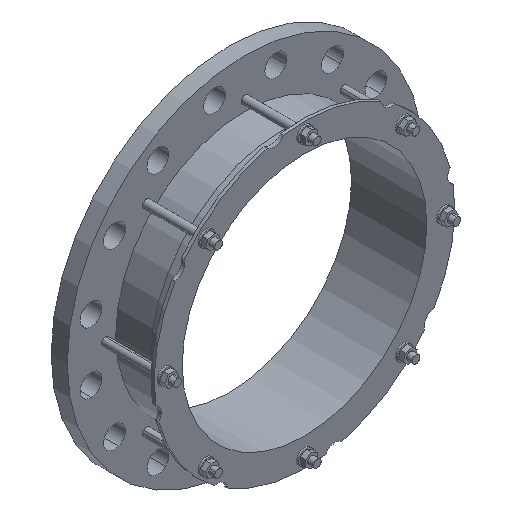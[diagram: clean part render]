
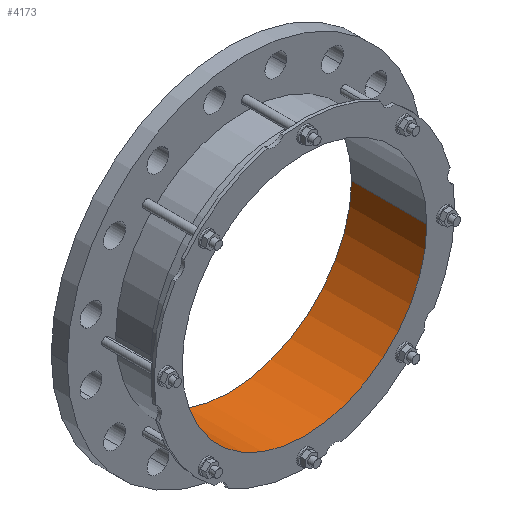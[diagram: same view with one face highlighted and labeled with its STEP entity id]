
A CAD part, isometric view. The second image highlights one B-rep face of the part: STEP entity #4173.
In plain terms, the highlighted cylindrical face has radius 190.75 mm (diameter 381.5 mm), a partial arc.
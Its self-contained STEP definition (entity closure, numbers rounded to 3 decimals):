
#7=CARTESIAN_POINT('',(0.,25.,0.));
#8=DIRECTION('',(0.,1.,0.));
#9=DIRECTION('',(1.,0.,0.));
#10=AXIS2_PLACEMENT_3D('',#7,#8,#9);
#1498=CARTESIAN_POINT('',(0.,-92.452,0.));
#1499=DIRECTION('',(0.,1.,0.));
#1500=DIRECTION('',(1.,0.,0.));
#1501=AXIS2_PLACEMENT_3D('',#1498,#1499,#1500);
#1503=DIRECTION('',(0.,1.,0.));
#1504=VECTOR('',#1503,117.452);
#1505=CARTESIAN_POINT('',(190.75,-92.452,0.));
#1506=LINE('',#1505,#1504);
#1507=DIRECTION('',(0.,1.,0.));
#1508=VECTOR('',#1507,117.452);
#1509=CARTESIAN_POINT('',(-190.75,-92.452,0.));
#1510=LINE('',#1509,#1508);
#2726=CARTESIAN_POINT('',(190.75,-92.452,0.));
#2727=CARTESIAN_POINT('',(190.75,25.,0.));
#2728=VERTEX_POINT('',#2726);
#2729=VERTEX_POINT('',#2727);
#2734=CARTESIAN_POINT('',(-190.75,-92.452,0.));
#2735=CARTESIAN_POINT('',(-190.75,25.,0.));
#2736=VERTEX_POINT('',#2734);
#2737=VERTEX_POINT('',#2735);
#4160=CARTESIAN_POINT('',(0.,-98.325,0.));
#4161=DIRECTION('',(0.,1.,0.));
#4162=DIRECTION('',(-1.,0.,0.));
#4163=AXIS2_PLACEMENT_3D('',#4160,#4161,#4162);
#4164=CYLINDRICAL_SURFACE('',#4163,190.75);
#4166=ORIENTED_EDGE('',*,*,#4165,.F.);
#4167=ORIENTED_EDGE('',*,*,#4153,.T.);
#4169=ORIENTED_EDGE('',*,*,#4168,.T.);
#4170=ORIENTED_EDGE('',*,*,#3357,.F.);
#4171=EDGE_LOOP('',(#4166,#4167,#4169,#4170));
#4172=FACE_OUTER_BOUND('',#4171,.F.);
#4173=ADVANCED_FACE('',(#4172),#4164,.F.);
#11=CIRCLE('',#10,190.75);
#1502=CIRCLE('',#1501,190.75);
#3357=EDGE_CURVE('',#2729,#2737,#11,.T.);
#4153=EDGE_CURVE('',#2728,#2736,#1502,.T.);
#4165=EDGE_CURVE('',#2728,#2729,#1506,.T.);
#4168=EDGE_CURVE('',#2736,#2737,#1510,.T.);
